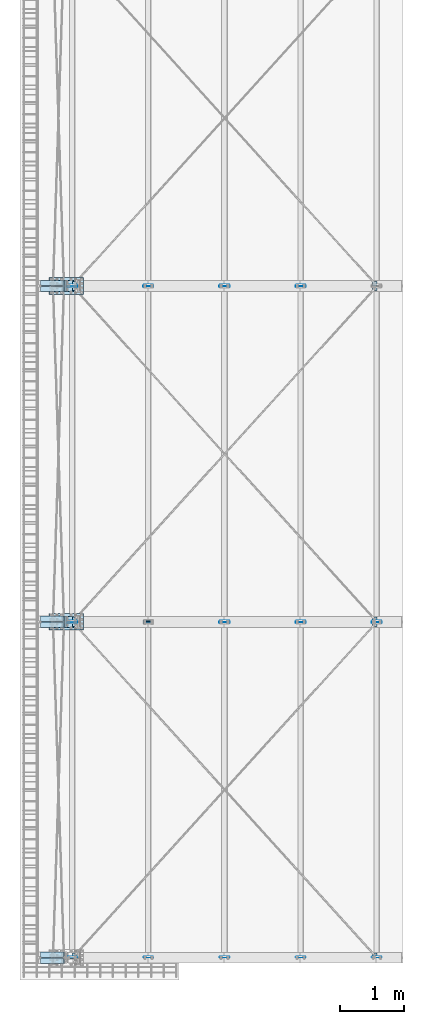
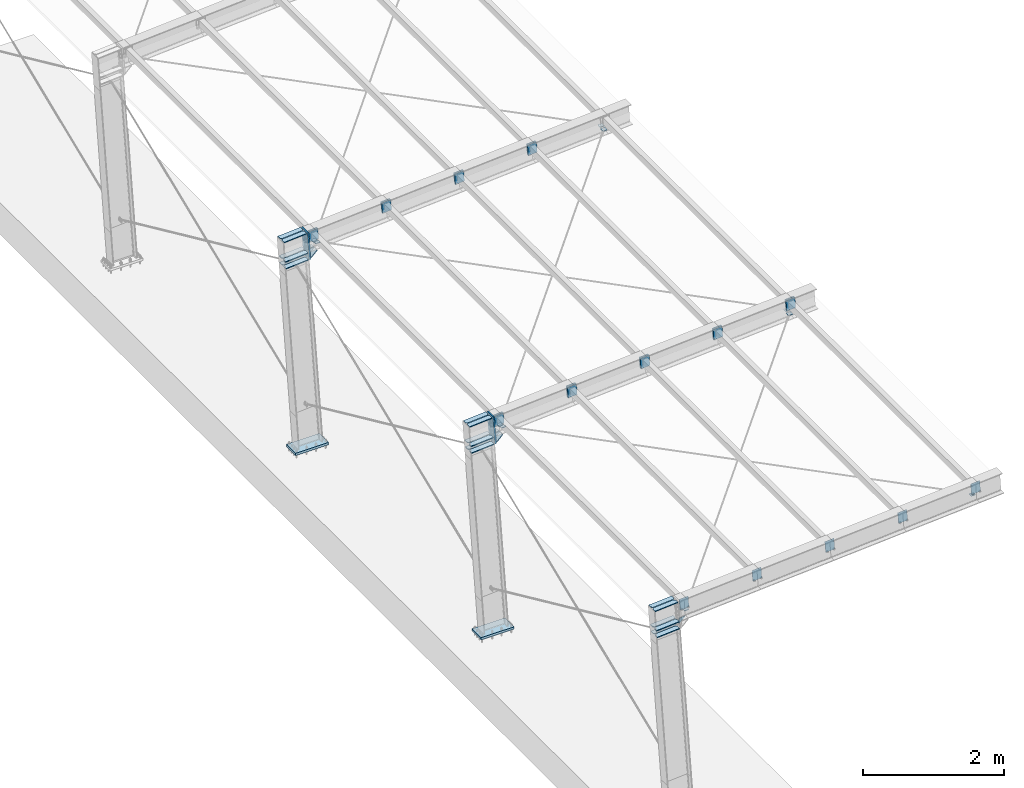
# One storey, part 4 of 72: 60 plates.
"""IFC4 building model written with IfcOpenShell, lengths in metres."""

from ifc_helpers import new_model, si_unit, frame, origin_with_axes, place, context, project, spatial, polyline, outline, extrude, type_object, element, save


model = new_model("IFC4")

# Units and contexts
model_context = context("Model", 3, precision=1e-05, world=origin_with_axes())
ifc_project = project(units=[si_unit("LENGTHUNIT", "METRE"), si_unit("AREAUNIT", "SQUARE_METRE"), si_unit("VOLUMEUNIT", "CUBIC_METRE"), si_unit("MASSUNIT", "GRAM", prefix="KILO"), si_unit("TIMEUNIT", "SECOND"), si_unit("PLANEANGLEUNIT", "RADIAN"), si_unit("SOLIDANGLEUNIT", "STERADIAN"), si_unit("THERMODYNAMICTEMPERATUREUNIT", "DEGREE_CELSIUS")], contexts=[model_context])

# Site, building, storey
placement_1 = place(None, origin_with_axes())
site = spatial("IfcSite", under=ifc_project, at=placement_1, Name="Italia", CompositionType="ELEMENT")
building = spatial("IfcBuilding", under=site, at=placement_1, Name="Pensilina", CompositionType="ELEMENT")
storey = spatial("IfcBuildingStorey", under=building, at=placement_1, Name="Storey 0", CompositionType="ELEMENT", Elevation=0.0)

# Plates
plate_type_1 = type_object("IfcPlateType", Name="Collegamento 0002_-197", PredefinedType="SHEET")
placement_2 = place(placement_1, origin_with_axes())
plate_1_placement = place(placement_2, origin_with_axes())
element("IfcPlate", 1, at=plate_1_placement, inside=storey, type_object=plate_type_1, Name="Collegamento 0002_-197", context=model_context, shape_type="SweptSolid", body=[
    extrude(outline(polyline([(0.0, 0.0, 0.0), (-0.26, 0.0, 0.0), (-0.26, 0.54094, 0.0), (0.0, 0.54094, 0.0), (0.0, 0.0, 0.0)])), frame((0.65818, 5.41, 0.103708), z_axis=(0.0, 0.0, -1.0), x_axis=(0.0, 1.0, 0.0)), (0.0, 0.0, 1.0), 0.04),
])
plate_type_2 = type_object("IfcPlateType", Name="Collegamento 0003_-198", PredefinedType="SHEET")
plate_2_placement = place(placement_2, origin_with_axes())
element("IfcPlate", 2, at=plate_2_placement, inside=storey, type_object=plate_type_2, Name="Collegamento 0003_-198", context=model_context, shape_type="SweptSolid", body=[
    extrude(outline(polyline([(0.0, 0.0, 0.0), (-0.26, 0.0, 0.0), (-0.26, 0.54094, 0.0), (0.0, 0.54094, 0.0), (0.0, 0.0, 0.0)])), frame((0.65818, 10.69, 0.103708), z_axis=(0.0, 0.0, -1.0), x_axis=(0.0, 1.0, 0.0)), (0.0, 0.0, 1.0), 0.04),
])
plate_type_3 = type_object("IfcPlateType", Name="Collegamento 0101_0201", PredefinedType="SHEET")
plate_3_placement = place(placement_2, origin_with_axes())
element("IfcPlate", 3, at=plate_3_placement, inside=storey, type_object=plate_type_3, Name="Collegamento 0101_0201", context=model_context, shape_type="SweptSolid", body=[
    extrude(outline(polyline([(0.0, 0.0, 0.0), (0.0929809, -0.00638795, 0.0), (0.10859, -0.0243001, 0.0), (0.10323, -0.102316, 0.0), (0.0, 0.0, 0.0)])), frame((1.03608, -0.007, 3.47709), z_axis=(0.0, 1.0, 0.0), x_axis=(-1.0, 0.0, 0.0)), (0.0, 0.0, 1.0), 0.014),
])
plate_type_4 = type_object("IfcPlateType", Name="Collegamento 0101_0201", PredefinedType="SHEET")
plate_4_placement = place(placement_2, origin_with_axes())
element("IfcPlate", 4, at=plate_4_placement, inside=storey, type_object=plate_type_4, Name="Collegamento 0101_0201", context=model_context, shape_type="SweptSolid", body=[
    extrude(outline(polyline([(0.0, 0.0, 0.0), (-0.0647, 0.0, 0.0), (-0.0857, 0.021, 0.0), (-0.0857, 0.352, 0.0), (-0.0647, 0.373, 0.0), (0.0, 0.373, 0.0), (0.0, 0.0, 0.0)])), frame((0.491131, 0.09, 3.8005), z_axis=(0.068539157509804, 0.0, -0.997648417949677), x_axis=(0.0, 1.0, 0.0)), (0.0, 0.0, 1.0), 0.014),
])
plate_type_5 = type_object("IfcPlateType", Name="Collegamento 0101_0201", PredefinedType="SHEET")
plate_5_placement = place(placement_2, origin_with_axes())
element("IfcPlate", 5, at=plate_5_placement, inside=storey, type_object=plate_type_5, Name="Collegamento 0101_0201", context=model_context, shape_type="SweptSolid", body=[
    extrude(outline(polyline([(0.0, 0.0, 0.0), (0.0647, 0.0, 0.0), (0.0857, 0.021, 0.0), (0.0857, 0.352, 0.0), (0.0647, 0.373, 0.0), (0.0, 0.373, 0.0), (0.0, 0.0, 0.0)])), frame((0.515805, 0.09, 3.44135), z_axis=(-0.06854011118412, 0.0, 0.997648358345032), x_axis=(0.0, -1.0, 0.0)), (0.0, 0.0, 1.0), 0.0140002),
])
plate_type_6 = type_object("IfcPlateType", Name="Collegamento 0101_0201", PredefinedType="SHEET")
plate_6_placement = place(placement_2, origin_with_axes())
element("IfcPlate", 6, at=plate_6_placement, inside=storey, type_object=plate_type_6, Name="Collegamento 0101_0201", context=model_context, shape_type="SweptSolid", body=[
    extrude(outline(polyline([(0.0, 0.0, 0.0), (-0.0647, 0.0, 0.0), (-0.0857, 0.021, 0.0), (-0.0857, 0.352, 0.0), (-0.0647, 0.373, 0.0), (0.0, 0.373, 0.0), (0.0, 0.0, 0.0)])), frame((0.492091, -0.09, 3.78653), z_axis=(-0.068539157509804, 0.0, 0.997648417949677), x_axis=(0.0, -1.0, 0.0)), (0.0, 0.0, 1.0), 0.014),
])
plate_type_7 = type_object("IfcPlateType", Name="Collegamento 0101_0201", PredefinedType="SHEET")
plate_7_placement = place(placement_2, origin_with_axes())
element("IfcPlate", 7, at=plate_7_placement, inside=storey, type_object=plate_type_7, Name="Collegamento 0101_0201", context=model_context, shape_type="SweptSolid", body=[
    extrude(outline(polyline([(0.0, 0.0, 0.0), (0.0647, 0.0, 0.0), (0.0857, 0.0210001, 0.0), (0.0857, 0.352, 0.0), (0.0647, 0.373, 0.0), (0.0, 0.373, 0.0), (0.0, 0.0, 0.0)])), frame((0.514846, -0.09, 3.45532), z_axis=(0.06854011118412, 0.0, -0.997648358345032), x_axis=(0.0, 1.0, 0.0)), (0.0, 0.0, 1.0), 0.0140002),
])
plate_type_8 = type_object("IfcPlateType", Name="Collegamento 0101_0201", PredefinedType="SHEET")
plate_8_placement = place(placement_2, origin_with_axes())
element("IfcPlate", 8, at=plate_8_placement, inside=storey, type_object=plate_type_8, Name="Collegamento 0101_0201", context=model_context, shape_type="SweptSolid", body=[
    extrude(outline(polyline([(0.0, 0.0, 0.0), (-0.0647, 0.0, 0.0), (-0.0857, 0.021, 0.0), (-0.0857, 0.352, 0.0), (-0.0647, 0.373, 0.0), (0.0, 0.373, 0.0), (0.0, 0.0, 0.0)])), frame((0.523071, 0.09, 3.3356), z_axis=(0.068541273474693, 0.0, -0.997648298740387), x_axis=(0.0, 1.0, 0.0)), (0.0, 0.0, 1.0), 0.014),
])
plate_type_9 = type_object("IfcPlateType", Name="Collegamento 0101_0201", PredefinedType="SHEET")
plate_9_placement = place(placement_2, origin_with_axes())
element("IfcPlate", 9, at=plate_9_placement, inside=storey, type_object=plate_type_9, Name="Collegamento 0101_0201", context=model_context, shape_type="SweptSolid", body=[
    extrude(outline(polyline([(0.0, 0.0, 0.0), (-0.0647, 0.0, 0.0), (-0.0857, 0.021, 0.0), (-0.0857, 0.352, 0.0), (-0.0647, 0.373, 0.0), (0.0, 0.373, 0.0), (0.0, 0.0, 0.0)])), frame((0.52403, -0.09, 3.32163), z_axis=(-0.068541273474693, 0.0, 0.997648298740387), x_axis=(0.0, -1.0, 0.0)), (0.0, 0.0, 1.0), 0.014),
])
plate_type_10 = type_object("IfcPlateType", Name="Collegamento 0102_0202", PredefinedType="SHEET")
plate_10_placement = place(placement_2, origin_with_axes())
element("IfcPlate", 10, at=plate_10_placement, inside=storey, type_object=plate_type_10, Name="Collegamento 0102_0202", context=model_context, shape_type="SweptSolid", body=[
    extrude(outline(polyline([(0.0, 0.0, 0.0), (-0.17, 0.0, 0.0), (-0.17, 0.48, 0.0), (0.0, 0.48, 0.0), (0.0, 0.0, 0.0)])), frame((0.934563, 5.195, 3.34984), z_axis=(-0.997648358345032, 0.0, -0.068540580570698), x_axis=(0.0, -1.0, 0.0)), (0.0, 0.0, 1.0), 0.025),
])
plate_type_11 = type_object("IfcPlateType", Name="Collegamento 0102_0202", PredefinedType="SHEET")
plate_11_placement = place(placement_2, origin_with_axes())
element("IfcPlate", 11, at=plate_11_placement, inside=storey, type_object=plate_type_11, Name="Collegamento 0102_0202", context=model_context, shape_type="SweptSolid", body=[
    extrude(outline(polyline([(0.0, 0.0, 0.0), (0.17, 0.0, 0.0), (0.17, -0.145344, 0.0), (0.0, -0.145344, 0.0), (0.0, 0.0, 0.0)])), frame((1.03608, 5.195, 3.47709), z_axis=(0.703953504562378, 0.0, -0.710246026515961), x_axis=(0.0, 1.0, 0.0)), (0.0, 0.0, 1.0), 0.0140001),
])
plate_type_12 = type_object("IfcPlateType", Name="Collegamento 0102_0202", PredefinedType="SHEET")
plate_12_placement = place(placement_2, origin_with_axes())
element("IfcPlate", 12, at=plate_12_placement, inside=storey, type_object=plate_type_12, Name="Collegamento 0102_0202", context=model_context, shape_type="SweptSolid", body=[
    extrude(outline(polyline([(0.0, 0.0, 0.0), (0.0929809, -0.00638795, 0.0), (0.10859, -0.0243001, 0.0), (0.10323, -0.102316, 0.0), (0.0, 0.0, 0.0)])), frame((1.03608, 5.273, 3.47709), z_axis=(0.0, 1.0, 0.0), x_axis=(-1.0, 0.0, 0.0)), (0.0, 0.0, 1.0), 0.0139999),
])
plate_type_13 = type_object("IfcPlateType", Name="Collegamento 0102_0202", PredefinedType="SHEET")
plate_13_placement = place(placement_2, origin_with_axes())
element("IfcPlate", 13, at=plate_13_placement, inside=storey, type_object=plate_type_13, Name="Collegamento 0102_0202", context=model_context, shape_type="SweptSolid", body=[
    extrude(outline(polyline([(0.0, 0.0, 0.0), (-0.0647001, 0.0, 0.0), (-0.0857, 0.021, 0.0), (-0.0857, 0.352, 0.0), (-0.0647001, 0.373, 0.0), (0.0, 0.373, 0.0), (0.0, 0.0, 0.0)])), frame((0.491131, 5.37, 3.8005), z_axis=(0.068539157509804, 0.0, -0.997648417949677), x_axis=(0.0, 1.0, 0.0)), (0.0, 0.0, 1.0), 0.014),
])
plate_type_14 = type_object("IfcPlateType", Name="Collegamento 0102_0202", PredefinedType="SHEET")
plate_14_placement = place(placement_2, origin_with_axes())
element("IfcPlate", 14, at=plate_14_placement, inside=storey, type_object=plate_type_14, Name="Collegamento 0102_0202", context=model_context, shape_type="SweptSolid", body=[
    extrude(outline(polyline([(0.0, 0.0, 0.0), (0.0647001, 0.0, 0.0), (0.0857, 0.021, 0.0), (0.0857, 0.352, 0.0), (0.0647001, 0.373, 0.0), (0.0, 0.373, 0.0), (0.0, 0.0, 0.0)])), frame((0.515805, 5.37, 3.44135), z_axis=(-0.06854011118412, 0.0, 0.997648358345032), x_axis=(0.0, -1.0, 0.0)), (0.0, 0.0, 1.0), 0.0140002),
])
plate_type_15 = type_object("IfcPlateType", Name="Collegamento 0102_0202", PredefinedType="SHEET")
plate_15_placement = place(placement_2, origin_with_axes())
element("IfcPlate", 15, at=plate_15_placement, inside=storey, type_object=plate_type_15, Name="Collegamento 0102_0202", context=model_context, shape_type="SweptSolid", body=[
    extrude(outline(polyline([(0.0, 0.0, 0.0), (-0.0647001, 0.0, 0.0), (-0.0857, 0.021, 0.0), (-0.0857, 0.352, 0.0), (-0.0647001, 0.373, 0.0), (0.0, 0.373, 0.0), (0.0, 0.0, 0.0)])), frame((0.492091, 5.19, 3.78653), z_axis=(-0.068539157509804, 0.0, 0.997648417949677), x_axis=(0.0, -1.0, 0.0)), (0.0, 0.0, 1.0), 0.014),
])
plate_type_16 = type_object("IfcPlateType", Name="Collegamento 0102_0202", PredefinedType="SHEET")
plate_16_placement = place(placement_2, origin_with_axes())
element("IfcPlate", 16, at=plate_16_placement, inside=storey, type_object=plate_type_16, Name="Collegamento 0102_0202", context=model_context, shape_type="SweptSolid", body=[
    extrude(outline(polyline([(0.0, 0.0, 0.0), (0.0647001, 0.0, 0.0), (0.0857, 0.0210001, 0.0), (0.0857, 0.352, 0.0), (0.0647001, 0.373, 0.0), (0.0, 0.373, 0.0), (0.0, 0.0, 0.0)])), frame((0.514846, 5.19, 3.45532), z_axis=(0.06854011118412, 0.0, -0.997648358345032), x_axis=(0.0, 1.0, 0.0)), (0.0, 0.0, 1.0), 0.0140002),
])
plate_type_17 = type_object("IfcPlateType", Name="Collegamento 0102_0202", PredefinedType="SHEET")
plate_17_placement = place(placement_2, origin_with_axes())
element("IfcPlate", 17, at=plate_17_placement, inside=storey, type_object=plate_type_17, Name="Collegamento 0102_0202", context=model_context, shape_type="SweptSolid", body=[
    extrude(outline(polyline([(0.0, 0.0, 0.0), (-0.0647001, 0.0, 0.0), (-0.0857, 0.021, 0.0), (-0.0857, 0.352, 0.0), (-0.0647001, 0.373, 0.0), (0.0, 0.373, 0.0), (0.0, 0.0, 0.0)])), frame((0.523071, 5.37, 3.3356), z_axis=(0.068541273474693, 0.0, -0.997648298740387), x_axis=(0.0, 1.0, 0.0)), (0.0, 0.0, 1.0), 0.014),
])
plate_type_18 = type_object("IfcPlateType", Name="Collegamento 0102_0202", PredefinedType="SHEET")
plate_18_placement = place(placement_2, origin_with_axes())
element("IfcPlate", 18, at=plate_18_placement, inside=storey, type_object=plate_type_18, Name="Collegamento 0102_0202", context=model_context, shape_type="SweptSolid", body=[
    extrude(outline(polyline([(0.0, 0.0, 0.0), (-0.0647001, 0.0, 0.0), (-0.0857, 0.021, 0.0), (-0.0857, 0.352, 0.0), (-0.0647001, 0.373, 0.0), (0.0, 0.373, 0.0), (0.0, 0.0, 0.0)])), frame((0.52403, 5.19, 3.32163), z_axis=(-0.068541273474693, 0.0, 0.997648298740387), x_axis=(0.0, -1.0, 0.0)), (0.0, 0.0, 1.0), 0.014),
])
plate_type_19 = type_object("IfcPlateType", Name="Collegamento 0103_0203", PredefinedType="SHEET")
plate_19_placement = place(placement_2, origin_with_axes())
element("IfcPlate", 19, at=plate_19_placement, inside=storey, type_object=plate_type_19, Name="Collegamento 0103_0203", context=model_context, shape_type="SweptSolid", body=[
    extrude(outline(polyline([(0.0, 0.0, 0.0), (-0.17, 0.0, 0.0), (-0.17, 0.48, 0.0), (0.0, 0.48, 0.0), (0.0, 0.0, 0.0)])), frame((0.934563, 10.475, 3.34984), z_axis=(-0.997648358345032, 0.0, -0.068540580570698), x_axis=(0.0, -1.0, 0.0)), (0.0, 0.0, 1.0), 0.025),
])
plate_type_20 = type_object("IfcPlateType", Name="Collegamento 0103_0203", PredefinedType="SHEET")
plate_20_placement = place(placement_2, origin_with_axes())
element("IfcPlate", 20, at=plate_20_placement, inside=storey, type_object=plate_type_20, Name="Collegamento 0103_0203", context=model_context, shape_type="SweptSolid", body=[
    extrude(outline(polyline([(0.0, 0.0, 0.0), (0.17, 0.0, 0.0), (0.17, -0.145344, 0.0), (0.0, -0.145344, 0.0), (0.0, 0.0, 0.0)])), frame((1.03608, 10.475, 3.47709), z_axis=(0.703953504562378, 0.0, -0.710246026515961), x_axis=(0.0, 1.0, 0.0)), (0.0, 0.0, 1.0), 0.0140001),
])
plate_type_21 = type_object("IfcPlateType", Name="Collegamento 0103_0203", PredefinedType="SHEET")
plate_21_placement = place(placement_2, origin_with_axes())
element("IfcPlate", 21, at=plate_21_placement, inside=storey, type_object=plate_type_21, Name="Collegamento 0103_0203", context=model_context, shape_type="SweptSolid", body=[
    extrude(outline(polyline([(0.0, 0.0, 0.0), (0.0929809, -0.00638795, 0.0), (0.10859, -0.0243001, 0.0), (0.10323, -0.102316, 0.0), (0.0, 0.0, 0.0)])), frame((1.03608, 10.553, 3.47709), z_axis=(0.0, 1.0, 0.0), x_axis=(-1.0, 0.0, 0.0)), (0.0, 0.0, 1.0), 0.0139999),
])
plate_type_22 = type_object("IfcPlateType", Name="Collegamento 0103_0203", PredefinedType="SHEET")
plate_22_placement = place(placement_2, origin_with_axes())
element("IfcPlate", 22, at=plate_22_placement, inside=storey, type_object=plate_type_22, Name="Collegamento 0103_0203", context=model_context, shape_type="SweptSolid", body=[
    extrude(outline(polyline([(0.0, 0.0, 0.0), (-0.0647001, 0.0, 0.0), (-0.0857, 0.021, 0.0), (-0.0857, 0.352, 0.0), (-0.0647001, 0.373, 0.0), (0.0, 0.373, 0.0), (0.0, 0.0, 0.0)])), frame((0.491131, 10.65, 3.8005), z_axis=(0.068539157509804, 0.0, -0.997648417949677), x_axis=(0.0, 1.0, 0.0)), (0.0, 0.0, 1.0), 0.014),
])
plate_type_23 = type_object("IfcPlateType", Name="Collegamento 0103_0203", PredefinedType="SHEET")
plate_23_placement = place(placement_2, origin_with_axes())
element("IfcPlate", 23, at=plate_23_placement, inside=storey, type_object=plate_type_23, Name="Collegamento 0103_0203", context=model_context, shape_type="SweptSolid", body=[
    extrude(outline(polyline([(0.0, 0.0, 0.0), (0.0647001, 0.0, 0.0), (0.0857, 0.021, 0.0), (0.0857, 0.352, 0.0), (0.0647001, 0.373, 0.0), (0.0, 0.373, 0.0), (0.0, 0.0, 0.0)])), frame((0.515805, 10.65, 3.44135), z_axis=(-0.06854011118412, 0.0, 0.997648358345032), x_axis=(0.0, -1.0, 0.0)), (0.0, 0.0, 1.0), 0.0140002),
])
plate_type_24 = type_object("IfcPlateType", Name="Collegamento 0103_0203", PredefinedType="SHEET")
plate_24_placement = place(placement_2, origin_with_axes())
element("IfcPlate", 24, at=plate_24_placement, inside=storey, type_object=plate_type_24, Name="Collegamento 0103_0203", context=model_context, shape_type="SweptSolid", body=[
    extrude(outline(polyline([(0.0, 0.0, 0.0), (-0.0647001, 0.0, 0.0), (-0.0857, 0.021, 0.0), (-0.0857, 0.352, 0.0), (-0.0647001, 0.373, 0.0), (0.0, 0.373, 0.0), (0.0, 0.0, 0.0)])), frame((0.492091, 10.47, 3.78653), z_axis=(-0.068539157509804, 0.0, 0.997648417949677), x_axis=(0.0, -1.0, 0.0)), (0.0, 0.0, 1.0), 0.014),
])
plate_type_25 = type_object("IfcPlateType", Name="Collegamento 0103_0203", PredefinedType="SHEET")
plate_25_placement = place(placement_2, origin_with_axes())
element("IfcPlate", 25, at=plate_25_placement, inside=storey, type_object=plate_type_25, Name="Collegamento 0103_0203", context=model_context, shape_type="SweptSolid", body=[
    extrude(outline(polyline([(0.0, 0.0, 0.0), (0.0647001, 0.0, 0.0), (0.0857, 0.0210001, 0.0), (0.0857, 0.352, 0.0), (0.0647001, 0.373, 0.0), (0.0, 0.373, 0.0), (0.0, 0.0, 0.0)])), frame((0.514846, 10.47, 3.45532), z_axis=(0.06854011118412, 0.0, -0.997648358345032), x_axis=(0.0, 1.0, 0.0)), (0.0, 0.0, 1.0), 0.0140002),
])
plate_type_26 = type_object("IfcPlateType", Name="Collegamento 0103_0203", PredefinedType="SHEET")
plate_26_placement = place(placement_2, origin_with_axes())
element("IfcPlate", 26, at=plate_26_placement, inside=storey, type_object=plate_type_26, Name="Collegamento 0103_0203", context=model_context, shape_type="SweptSolid", body=[
    extrude(outline(polyline([(0.0, 0.0, 0.0), (-0.0647001, 0.0, 0.0), (-0.0857, 0.021, 0.0), (-0.0857, 0.352, 0.0), (-0.0647001, 0.373, 0.0), (0.0, 0.373, 0.0), (0.0, 0.0, 0.0)])), frame((0.523071, 10.65, 3.3356), z_axis=(0.068541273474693, 0.0, -0.997648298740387), x_axis=(0.0, 1.0, 0.0)), (0.0, 0.0, 1.0), 0.014),
])
plate_type_27 = type_object("IfcPlateType", Name="Collegamento 0103_0203", PredefinedType="SHEET")
plate_27_placement = place(placement_2, origin_with_axes())
element("IfcPlate", 27, at=plate_27_placement, inside=storey, type_object=plate_type_27, Name="Collegamento 0103_0203", context=model_context, shape_type="SweptSolid", body=[
    extrude(outline(polyline([(0.0, 0.0, 0.0), (-0.0647001, 0.0, 0.0), (-0.0857, 0.021, 0.0), (-0.0857, 0.352, 0.0), (-0.0647001, 0.373, 0.0), (0.0, 0.373, 0.0), (0.0, 0.0, 0.0)])), frame((0.52403, 10.47, 3.32163), z_axis=(-0.068541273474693, 0.0, 0.997648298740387), x_axis=(0.0, -1.0, 0.0)), (0.0, 0.0, 1.0), 0.014),
])
plate_type_28 = type_object("IfcPlateType", Name="Collegamento 0201_0202", PredefinedType="SHEET")
plate_28_placement = place(placement_2, origin_with_axes())
element("IfcPlate", 28, at=plate_28_placement, inside=storey, type_object=plate_type_28, Name="Collegamento 0201_0202", context=model_context, shape_type="SweptSolid", body=[
    extrude(outline(polyline([(0.0, 0.0, 0.0), (-0.147664, -0.00996304, 0.0), (-0.16032, 0.17761, 0.0), (-0.012656, 0.187573, 0.0), (0.0, 0.0, 0.0)])), frame((1.10121, 0.014, 3.60777), z_axis=(0.0, -1.0, 0.0), x_axis=(1.0, 0.0, 0.0)), (0.0, 0.0, 1.0), 0.01),
])
plate_type_29 = type_object("IfcPlateType", Name="Collegamento 0201_0602", PredefinedType="SHEET")
plate_29_placement = place(placement_2, origin_with_axes())
element("IfcPlate", 29, at=plate_29_placement, inside=storey, type_object=plate_type_29, Name="Collegamento 0201_0602", context=model_context, shape_type="SweptSolid", body=[
    extrude(outline(polyline([(0.0, 0.0, 0.0), (0.0470518, -0.0518278, 0.0), (-0.00477594, -0.0988799, 0.0), (-0.0518278, -0.047052, 0.0), (0.0, 0.0, 0.0)])), frame((1.09773, 0.0744715, 3.5564), z_axis=(-0.030970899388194, -0.034150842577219, 0.998936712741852), x_axis=(0.740752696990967, -0.671777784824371, 0.0)), (0.0, 0.0, 1.0), 0.00999989),
])
plate_type_30 = type_object("IfcPlateType", Name="Collegamento 0202_0201", PredefinedType="SHEET")
plate_30_placement = place(placement_2, origin_with_axes())
element("IfcPlate", 30, at=plate_30_placement, inside=storey, type_object=plate_type_30, Name="Collegamento 0202_0201", context=model_context, shape_type="SweptSolid", body=[
    extrude(outline(polyline([(0.0, 0.0, 0.0), (-0.147664, 0.00996304, 0.0), (-0.135008, 0.197536, 0.0), (0.0126559, 0.187573, 0.0), (0.0, 0.0, 0.0)])), frame((0.953545, 5.261, 3.59781), z_axis=(0.0, 1.0, 0.0), x_axis=(-1.0, 0.0, 0.0)), (0.0, 0.0, 1.0), 0.0149999),
])
plate_type_31 = type_object("IfcPlateType", Name="Collegamento 0202_0203", PredefinedType="SHEET")
plate_31_placement = place(placement_2, origin_with_axes())
element("IfcPlate", 31, at=plate_31_placement, inside=storey, type_object=plate_type_31, Name="Collegamento 0202_0203", context=model_context, shape_type="SweptSolid", body=[
    extrude(outline(polyline([(0.0, 0.0, 0.0), (-0.147664, -0.00996304, 0.0), (-0.16032, 0.17761, 0.0), (-0.012656, 0.187573, 0.0), (0.0, 0.0, 0.0)])), frame((1.10121, 5.299, 3.60777), z_axis=(0.0, -1.0, 0.0), x_axis=(1.0, 0.0, 0.0)), (0.0, 0.0, 1.0), 0.0149999),
])
plate_type_32 = type_object("IfcPlateType", Name="Collegamento 0202_0601", PredefinedType="SHEET")
plate_32_placement = place(placement_2, origin_with_axes())
element("IfcPlate", 32, at=plate_32_placement, inside=storey, type_object=plate_type_32, Name="Collegamento 0202_0601", context=model_context, shape_type="SweptSolid", body=[
    extrude(outline(polyline([(0.0, 0.0, 0.0), (-0.0470586, -0.0518217, 0.0), (-0.0988808, -0.00476313, 0.0), (-0.0518217, 0.0470586, 0.0), (0.0, 0.0, 0.0)])), frame((1.02776, 5.20553, 3.57425), z_axis=(-0.03097090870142, 0.034141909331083, 0.998937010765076), x_axis=(-0.740665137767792, -0.671874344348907, 0.0)), (0.0, 0.0, 1.0), 0.00999989),
])
plate_type_33 = type_object("IfcPlateType", Name="Collegamento 0202_0603", PredefinedType="SHEET")
plate_33_placement = place(placement_2, origin_with_axes())
element("IfcPlate", 33, at=plate_33_placement, inside=storey, type_object=plate_type_33, Name="Collegamento 0202_0603", context=model_context, shape_type="SweptSolid", body=[
    extrude(outline(polyline([(0.0, 0.0, 0.0), (0.0470684, -0.0518126, 0.0), (-0.00474405, -0.0988812, 0.0), (-0.0518126, -0.0470686, 0.0), (0.0, 0.0, 0.0)])), frame((1.09773, 5.35447, 3.5564), z_axis=(-0.030982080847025, -0.034141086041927, 0.998936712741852), x_axis=(0.740536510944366, -0.672016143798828, 0.0)), (0.0, 0.0, 1.0), 0.0100001),
])
plate_type_34 = type_object("IfcPlateType", Name="Collegamento 0203_0202", PredefinedType="SHEET")
plate_34_placement = place(placement_2, origin_with_axes())
element("IfcPlate", 34, at=plate_34_placement, inside=storey, type_object=plate_type_34, Name="Collegamento 0203_0202", context=model_context, shape_type="SweptSolid", body=[
    extrude(outline(polyline([(0.0, 0.0, 0.0), (-0.147664, 0.00996304, 0.0), (-0.135008, 0.197536, 0.0), (0.0126559, 0.187573, 0.0), (0.0, 0.0, 0.0)])), frame((0.953545, 10.541, 3.59781), z_axis=(0.0, 1.0, 0.0), x_axis=(-1.0, 0.0, 0.0)), (0.0, 0.0, 1.0), 0.0150003),
])
plate_type_35 = type_object("IfcPlateType", Name="Collegamento 0203_0204", PredefinedType="SHEET")
plate_35_placement = place(placement_2, origin_with_axes())
element("IfcPlate", 35, at=plate_35_placement, inside=storey, type_object=plate_type_35, Name="Collegamento 0203_0204", context=model_context, shape_type="SweptSolid", body=[
    extrude(outline(polyline([(0.0, 0.0, 0.0), (-0.147664, -0.00996304, 0.0), (-0.16032, 0.17761, 0.0), (-0.012656, 0.187573, 0.0), (0.0, 0.0, 0.0)])), frame((1.10121, 10.579, 3.60777), z_axis=(0.0, -1.0, 0.0), x_axis=(1.0, 0.0, 0.0)), (0.0, 0.0, 1.0), 0.0150003),
])
plate_type_36 = type_object("IfcPlateType", Name="Collegamento 0203_0602", PredefinedType="SHEET")
plate_36_placement = place(placement_2, origin_with_axes())
element("IfcPlate", 36, at=plate_36_placement, inside=storey, type_object=plate_type_36, Name="Collegamento 0203_0602", context=model_context, shape_type="SweptSolid", body=[
    extrude(outline(polyline([(0.0, 0.0, 0.0), (-0.0470681, -0.0518122, 0.0), (-0.0988812, -0.00474453, 0.0), (-0.0518126, 0.0470686, 0.0), (0.0, 0.0, 0.0)])), frame((1.02776, 10.4855, 3.57425), z_axis=(-0.030982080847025, 0.034141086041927, 0.998936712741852), x_axis=(-0.740536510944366, -0.672016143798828, 0.0)), (0.0, 0.0, 1.0), 0.0100001),
])
plate_type_37 = type_object("IfcPlateType", Name="Collegamento 0203_0604", PredefinedType="SHEET")
plate_37_placement = place(placement_2, origin_with_axes())
element("IfcPlate", 37, at=plate_37_placement, inside=storey, type_object=plate_type_37, Name="Collegamento 0203_0604", context=model_context, shape_type="SweptSolid", body=[
    extrude(outline(polyline([(0.0, 0.0, 0.0), (0.0470676, -0.0518131, 0.0), (-0.00474453, -0.0988817, 0.0), (-0.0518136, -0.0470676, 0.0), (0.0, 0.0, 0.0)])), frame((1.09773, 10.6345, 3.5564), z_axis=(-0.030982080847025, -0.034141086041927, 0.998936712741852), x_axis=(0.740536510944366, -0.672016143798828, 0.0)), (0.0, 0.0, 1.0), 0.0100001),
])
plate_type_38 = type_object("IfcPlateType", Name="Collegamento 0301_0302", PredefinedType="SHEET")
plate_38_placement = place(placement_2, origin_with_axes())
element("IfcPlate", 38, at=plate_38_placement, inside=storey, type_object=plate_type_38, Name="Collegamento 0301_0302", context=model_context, shape_type="SweptSolid", body=[
    extrude(outline(polyline([(0.0, 0.0, 0.0), (-0.147664, -0.00996304, 0.0), (-0.16032, 0.17761, 0.0), (-0.012656, 0.187573, 0.0), (0.0, 0.0, 0.0)])), frame((2.29843, 0.014, 3.69003), z_axis=(0.0, -1.0, 0.0), x_axis=(1.0, 0.0, 0.0)), (0.0, 0.0, 1.0), 0.01),
])
plate_type_39 = type_object("IfcPlateType", Name="Collegamento 0302_0301", PredefinedType="SHEET")
plate_39_placement = place(placement_2, origin_with_axes())
element("IfcPlate", 39, at=plate_39_placement, inside=storey, type_object=plate_type_39, Name="Collegamento 0302_0301", context=model_context, shape_type="SweptSolid", body=[
    extrude(outline(polyline([(0.0, 0.0, 0.0), (-0.147664, 0.00996304, 0.0), (-0.135008, 0.197536, 0.0), (0.012656, 0.187573, 0.0), (0.0, 0.0, 0.0)])), frame((2.15077, 5.256, 3.68006), z_axis=(0.0, 1.0, 0.0), x_axis=(-1.0, 0.0, 0.0)), (0.0, 0.0, 1.0), 0.02),
])
plate_type_40 = type_object("IfcPlateType", Name="Collegamento 0302_0303", PredefinedType="SHEET")
plate_40_placement = place(placement_2, origin_with_axes())
element("IfcPlate", 40, at=plate_40_placement, inside=storey, type_object=plate_type_40, Name="Collegamento 0302_0303", context=model_context, shape_type="SweptSolid", body=[
    extrude(outline(polyline([(0.0, 0.0, 0.0), (-0.147664, -0.00996304, 0.0), (-0.16032, 0.17761, 0.0), (-0.012656, 0.187573, 0.0), (0.0, 0.0, 0.0)])), frame((2.29843, 5.304, 3.69003), z_axis=(0.0, -1.0, 0.0), x_axis=(1.0, 0.0, 0.0)), (0.0, 0.0, 1.0), 0.02),
])
plate_type_41 = type_object("IfcPlateType", Name="Collegamento 0303_0302", PredefinedType="SHEET")
plate_41_placement = place(placement_2, origin_with_axes())
element("IfcPlate", 41, at=plate_41_placement, inside=storey, type_object=plate_type_41, Name="Collegamento 0303_0302", context=model_context, shape_type="SweptSolid", body=[
    extrude(outline(polyline([(0.0, 0.0, 0.0), (-0.147664, 0.00996304, 0.0), (-0.135008, 0.197536, 0.0), (0.012656, 0.187573, 0.0), (0.0, 0.0, 0.0)])), frame((2.15077, 10.541, 3.68006), z_axis=(0.0, 1.0, 0.0), x_axis=(-1.0, 0.0, 0.0)), (0.0, 0.0, 1.0), 0.0150003),
])
plate_type_42 = type_object("IfcPlateType", Name="Collegamento 0303_0304", PredefinedType="SHEET")
plate_42_placement = place(placement_2, origin_with_axes())
element("IfcPlate", 42, at=plate_42_placement, inside=storey, type_object=plate_type_42, Name="Collegamento 0303_0304", context=model_context, shape_type="SweptSolid", body=[
    extrude(outline(polyline([(0.0, 0.0, 0.0), (-0.147664, -0.00996304, 0.0), (-0.16032, 0.17761, 0.0), (-0.012656, 0.187573, 0.0), (0.0, 0.0, 0.0)])), frame((2.29843, 10.579, 3.69003), z_axis=(0.0, -1.0, 0.0), x_axis=(1.0, 0.0, 0.0)), (0.0, 0.0, 1.0), 0.0150003),
])
plate_type_43 = type_object("IfcPlateType", Name="Collegamento 0401_0402", PredefinedType="SHEET")
plate_43_placement = place(placement_2, origin_with_axes())
element("IfcPlate", 43, at=plate_43_placement, inside=storey, type_object=plate_type_43, Name="Collegamento 0401_0402", context=model_context, shape_type="SweptSolid", body=[
    extrude(outline(polyline([(0.0, 0.0, 0.0), (-0.147664, -0.00996304, 0.0), (-0.16032, 0.17761, 0.0), (-0.012656, 0.187573, 0.0), (0.0, 0.0, 0.0)])), frame((3.49556, 0.014, 3.77227), z_axis=(0.0, -1.0, 0.0), x_axis=(1.0, 0.0, 0.0)), (0.0, 0.0, 1.0), 0.01),
])
plate_type_44 = type_object("IfcPlateType", Name="Collegamento 0402_0401", PredefinedType="SHEET")
plate_44_placement = place(placement_2, origin_with_axes())
element("IfcPlate", 44, at=plate_44_placement, inside=storey, type_object=plate_type_44, Name="Collegamento 0402_0401", context=model_context, shape_type="SweptSolid", body=[
    extrude(outline(polyline([(0.0, 0.0, 0.0), (-0.147664, 0.00996304, 0.0), (-0.135008, 0.197536, 0.0), (0.012656, 0.187573, 0.0), (0.0, 0.0, 0.0)])), frame((3.34789, 5.261, 3.76231), z_axis=(0.0, 1.0, 0.0), x_axis=(-1.0, 0.0, 0.0)), (0.0, 0.0, 1.0), 0.0149999),
])
plate_type_45 = type_object("IfcPlateType", Name="Collegamento 0402_0403", PredefinedType="SHEET")
plate_45_placement = place(placement_2, origin_with_axes())
element("IfcPlate", 45, at=plate_45_placement, inside=storey, type_object=plate_type_45, Name="Collegamento 0402_0403", context=model_context, shape_type="SweptSolid", body=[
    extrude(outline(polyline([(0.0, 0.0, 0.0), (-0.147664, -0.00996304, 0.0), (-0.16032, 0.17761, 0.0), (-0.012656, 0.187573, 0.0), (0.0, 0.0, 0.0)])), frame((3.49556, 5.299, 3.77227), z_axis=(0.0, -1.0, 0.0), x_axis=(1.0, 0.0, 0.0)), (0.0, 0.0, 1.0), 0.0149999),
])
plate_type_46 = type_object("IfcPlateType", Name="Collegamento 0403_0402", PredefinedType="SHEET")
plate_46_placement = place(placement_2, origin_with_axes())
element("IfcPlate", 46, at=plate_46_placement, inside=storey, type_object=plate_type_46, Name="Collegamento 0403_0402", context=model_context, shape_type="SweptSolid", body=[
    extrude(outline(polyline([(0.0, 0.0, 0.0), (-0.147664, 0.00996304, 0.0), (-0.135008, 0.197536, 0.0), (0.012656, 0.187573, 0.0), (0.0, 0.0, 0.0)])), frame((3.34789, 10.541, 3.76231), z_axis=(0.0, 1.0, 0.0), x_axis=(-1.0, 0.0, 0.0)), (0.0, 0.0, 1.0), 0.0150003),
])
plate_type_47 = type_object("IfcPlateType", Name="Collegamento 0403_0404", PredefinedType="SHEET")
plate_47_placement = place(placement_2, origin_with_axes())
element("IfcPlate", 47, at=plate_47_placement, inside=storey, type_object=plate_type_47, Name="Collegamento 0403_0404", context=model_context, shape_type="SweptSolid", body=[
    extrude(outline(polyline([(0.0, 0.0, 0.0), (-0.147664, -0.00996304, 0.0), (-0.16032, 0.17761, 0.0), (-0.012656, 0.187573, 0.0), (0.0, 0.0, 0.0)])), frame((3.49556, 10.579, 3.77227), z_axis=(0.0, -1.0, 0.0), x_axis=(1.0, 0.0, 0.0)), (0.0, 0.0, 1.0), 0.0150003),
])
plate_type_48 = type_object("IfcPlateType", Name="Collegamento 0501_0502", PredefinedType="SHEET")
plate_48_placement = place(placement_2, origin_with_axes())
element("IfcPlate", 48, at=plate_48_placement, inside=storey, type_object=plate_type_48, Name="Collegamento 0501_0502", context=model_context, shape_type="SweptSolid", body=[
    extrude(outline(polyline([(0.0, 0.0, 0.0), (-0.147664, -0.00996327, 0.0), (-0.16032, 0.17761, 0.0), (-0.0126562, 0.187573, 0.0), (0.0, 0.0, 0.0)])), frame((4.69277, 0.014, 3.85452), z_axis=(0.0, -1.0, 0.0), x_axis=(1.0, 0.0, 0.0)), (0.0, 0.0, 1.0), 0.01),
])
plate_type_49 = type_object("IfcPlateType", Name="Collegamento 0502_0501", PredefinedType="SHEET")
plate_49_placement = place(placement_2, origin_with_axes())
element("IfcPlate", 49, at=plate_49_placement, inside=storey, type_object=plate_type_49, Name="Collegamento 0502_0501", context=model_context, shape_type="SweptSolid", body=[
    extrude(outline(polyline([(0.0, 0.0, 0.0), (-0.147664, 0.00996327, 0.0), (-0.135008, 0.197537, 0.0), (0.0126562, 0.187574, 0.0), (0.0, 0.0, 0.0)])), frame((4.5451, 5.261, 3.84456), z_axis=(0.0, 1.0, 0.0), x_axis=(-1.0, 0.0, 0.0)), (0.0, 0.0, 1.0), 0.0149999),
])
plate_type_50 = type_object("IfcPlateType", Name="Collegamento 0502_0503", PredefinedType="SHEET")
plate_50_placement = place(placement_2, origin_with_axes())
element("IfcPlate", 50, at=plate_50_placement, inside=storey, type_object=plate_type_50, Name="Collegamento 0502_0503", context=model_context, shape_type="SweptSolid", body=[
    extrude(outline(polyline([(0.0, 0.0, 0.0), (-0.147664, -0.00996327, 0.0), (-0.16032, 0.17761, 0.0), (-0.0126562, 0.187573, 0.0), (0.0, 0.0, 0.0)])), frame((4.69277, 5.299, 3.85452), z_axis=(0.0, -1.0, 0.0), x_axis=(1.0, 0.0, 0.0)), (0.0, 0.0, 1.0), 0.0149999),
])
plate_type_51 = type_object("IfcPlateType", Name="Collegamento 0503_0502", PredefinedType="SHEET")
plate_51_placement = place(placement_2, origin_with_axes())
element("IfcPlate", 51, at=plate_51_placement, inside=storey, type_object=plate_type_51, Name="Collegamento 0503_0502", context=model_context, shape_type="SweptSolid", body=[
    extrude(outline(polyline([(0.0, 0.0, 0.0), (-0.147664, 0.00996327, 0.0), (-0.135008, 0.197537, 0.0), (0.0126562, 0.187574, 0.0), (0.0, 0.0, 0.0)])), frame((4.5451, 10.541, 3.84456), z_axis=(0.0, 1.0, 0.0), x_axis=(-1.0, 0.0, 0.0)), (0.0, 0.0, 1.0), 0.0150003),
])
plate_type_52 = type_object("IfcPlateType", Name="Collegamento 0503_0504", PredefinedType="SHEET")
plate_52_placement = place(placement_2, origin_with_axes())
element("IfcPlate", 52, at=plate_52_placement, inside=storey, type_object=plate_type_52, Name="Collegamento 0503_0504", context=model_context, shape_type="SweptSolid", body=[
    extrude(outline(polyline([(0.0, 0.0, 0.0), (-0.147664, -0.00996327, 0.0), (-0.16032, 0.17761, 0.0), (-0.0126562, 0.187573, 0.0), (0.0, 0.0, 0.0)])), frame((4.69277, 10.579, 3.85452), z_axis=(0.0, -1.0, 0.0), x_axis=(1.0, 0.0, 0.0)), (0.0, 0.0, 1.0), 0.0150003),
])
plate_type_53 = type_object("IfcPlateType", Name="Collegamento 0601_0202", PredefinedType="SHEET")
plate_53_placement = place(placement_2, origin_with_axes())
element("IfcPlate", 53, at=plate_53_placement, inside=storey, type_object=plate_type_53, Name="Collegamento 0601_0202", context=model_context, shape_type="SweptSolid", body=[
    extrude(outline(polyline([(0.0, 0.0, 0.0), (0.0470304, 0.0518477, 0.0), (-0.00481653, 0.0988781, 0.0), (-0.0518479, 0.0470307, 0.0), (0.0, 0.0, 0.0)])), frame((5.73945, 0.073447, 3.8958), z_axis=(-0.030947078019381, 0.03415310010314, 0.998937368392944), x_axis=(-0.74103194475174, -0.671469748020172, 0.0)), (0.0, 0.0, 1.0), 0.00999989),
])
plate_type_54 = type_object("IfcPlateType", Name="Collegamento 0601_0602", PredefinedType="SHEET")
plate_54_placement = place(placement_2, origin_with_axes())
element("IfcPlate", 54, at=plate_54_placement, inside=storey, type_object=plate_type_54, Name="Collegamento 0601_0602", context=model_context, shape_type="SweptSolid", body=[
    extrude(outline(polyline([(0.0, 0.0, 0.0), (-0.147664, -0.00996327, 0.0), (-0.16032, 0.17761, 0.0), (-0.0126562, 0.187573, 0.0), (0.0, 0.0, 0.0)])), frame((5.88997, 0.014, 3.93677), z_axis=(0.0, -1.0, 0.0), x_axis=(1.0, 0.0, 0.0)), (0.0, 0.0, 1.0), 0.01),
])
plate_type_55 = type_object("IfcPlateType", Name="Collegamento 0602_0201", PredefinedType="SHEET")
plate_55_placement = place(placement_2, origin_with_axes())
element("IfcPlate", 55, at=plate_55_placement, inside=storey, type_object=plate_type_55, Name="Collegamento 0602_0201", context=model_context, shape_type="SweptSolid", body=[
    extrude(outline(polyline([(0.0, 0.0, 0.0), (-0.0471183, 0.0517669, 0.0), (-0.0988859, 0.00464916, 0.0), (-0.0517676, -0.0471187, 0.0), (0.0, 0.0, 0.0)])), frame((5.80942, 5.20655, 3.87795), z_axis=(-0.031041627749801, -0.034141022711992, 0.998934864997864), x_axis=(0.739893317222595, -0.67272424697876, 0.0)), (0.0, 0.0, 1.0), 0.0100002),
])
plate_type_56 = type_object("IfcPlateType", Name="Collegamento 0602_0203", PredefinedType="SHEET")
plate_56_placement = place(placement_2, origin_with_axes())
element("IfcPlate", 56, at=plate_56_placement, inside=storey, type_object=plate_type_56, Name="Collegamento 0602_0203", context=model_context, shape_type="SweptSolid", body=[
    extrude(outline(polyline([(0.0, 0.0, 0.0), (0.046999, 0.0518758, 0.0), (-0.00487661, 0.0988752, 0.0), (-0.0518765, 0.046999, 0.0), (0.0, 0.0, 0.0)])), frame((5.73945, 5.35345, 3.8958), z_axis=(-0.030900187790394, 0.034142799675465, 0.998939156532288), x_axis=(-0.741437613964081, -0.67102175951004, 0.0)), (0.0, 0.0, 1.0), 0.00999963),
])
plate_type_57 = type_object("IfcPlateType", Name="Collegamento 0602_0601", PredefinedType="SHEET")
plate_57_placement = place(placement_2, origin_with_axes())
element("IfcPlate", 57, at=plate_57_placement, inside=storey, type_object=plate_type_57, Name="Collegamento 0602_0601", context=model_context, shape_type="SweptSolid", body=[
    extrude(outline(polyline([(0.0, 0.0, 0.0), (-0.147664, 0.00996327, 0.0), (-0.135008, 0.197537, 0.0), (0.0126562, 0.187574, 0.0), (0.0, 0.0, 0.0)])), frame((5.74231, 5.261, 3.92681), z_axis=(0.0, 1.0, 0.0), x_axis=(-1.0, 0.0, 0.0)), (0.0, 0.0, 1.0), 0.0149999),
])
plate_type_58 = type_object("IfcPlateType", Name="Collegamento 0602_0603", PredefinedType="SHEET")
plate_58_placement = place(placement_2, origin_with_axes())
element("IfcPlate", 58, at=plate_58_placement, inside=storey, type_object=plate_type_58, Name="Collegamento 0602_0603", context=model_context, shape_type="SweptSolid", body=[
    extrude(outline(polyline([(0.0, 0.0, 0.0), (-0.147664, -0.00996327, 0.0), (-0.16032, 0.17761, 0.0), (-0.0126562, 0.187573, 0.0), (0.0, 0.0, 0.0)])), frame((5.88997, 5.299, 3.93677), z_axis=(0.0, -1.0, 0.0), x_axis=(1.0, 0.0, 0.0)), (0.0, 0.0, 1.0), 0.0149999),
])
plate_type_59 = type_object("IfcPlateType", Name="Collegamento 0603_0202", PredefinedType="SHEET")
plate_59_placement = place(placement_2, origin_with_axes())
element("IfcPlate", 59, at=plate_59_placement, inside=storey, type_object=plate_type_59, Name="Collegamento 0603_0202", context=model_context, shape_type="SweptSolid", body=[
    extrude(outline(polyline([(0.0, 0.0, 0.0), (-0.0470061, 0.0518665, 0.0), (-0.0988755, 0.00486088, 0.0), (-0.0518675, -0.0470085, 0.0), (0.0, 0.0, 0.0)])), frame((5.80942, 10.4866, 3.87795), z_axis=(-0.030993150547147, -0.034235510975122, 0.998933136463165), x_axis=(0.741340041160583, -0.671129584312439, 0.0)), (0.0, 0.0, 1.0), 0.0100004),
])
plate_type_60 = type_object("IfcPlateType", Name="Collegamento 0603_0204", PredefinedType="SHEET")
plate_60_placement = place(placement_2, origin_with_axes())
element("IfcPlate", 60, at=plate_60_placement, inside=storey, type_object=plate_type_60, Name="Collegamento 0603_0204", context=model_context, shape_type="SweptSolid", body=[
    extrude(outline(polyline([(0.0, 0.0, 0.0), (0.0470781, 0.0518031, 0.0), (-0.0047245, 0.0988815, 0.0), (-0.0518036, 0.0470781, 0.0), (0.0, 0.0, 0.0)])), frame((5.73945, 10.6334, 3.8958), z_axis=(-0.030995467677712, 0.034142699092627, 0.998936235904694), x_axis=(-0.740407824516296, -0.672157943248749, 0.0)), (0.0, 0.0, 1.0), 0.00999966),
])

save(model, "model.ifc")
